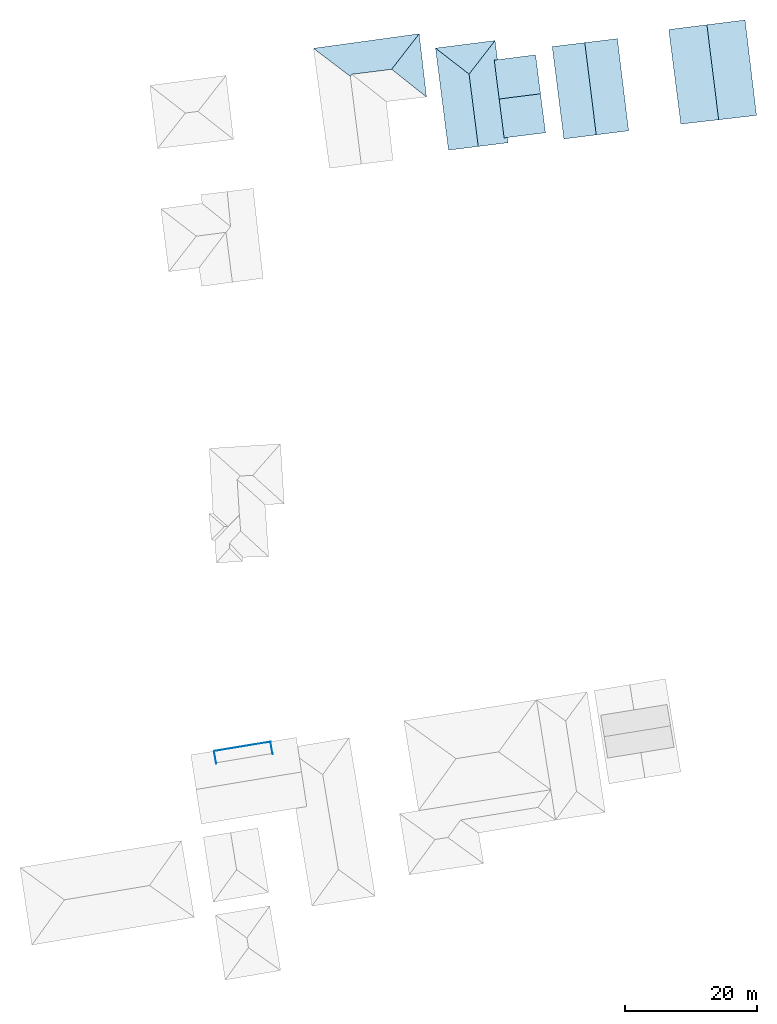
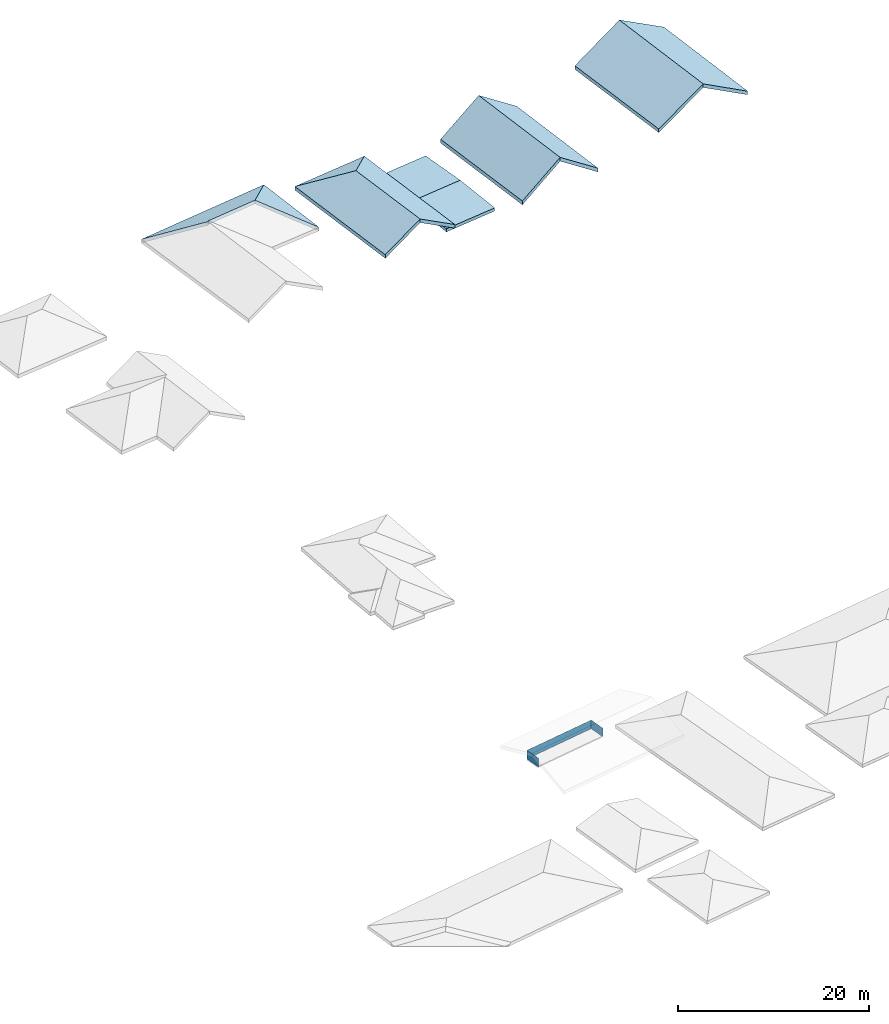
# One storey, part 2 of 5: 11 slabs, 3 walls, 5 elements without a shape of their own.
"""IFC2X3 building model written with IfcOpenShell, lengths in metres."""

from ifc_helpers import new_model, entity, si_unit, converted_unit, derived_unit, direction, frame, frame_2d, origin, place, context, subcontext, project, spatial, polyline, rectangle, outline, extrude, material, layer, layer_set, layer_usage, type_object, element, aggregate, save


model = new_model("IFC2X3")

# Units and contexts
model_context = context("Model", 3, precision=1e-05, world=origin(), true_north=direction((6.123031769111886e-17, 1.0)))
body_context = subcontext(model_context, "Body", "Model", "MODEL_VIEW")
ifc_project = project(units=[si_unit("LENGTHUNIT", "METRE"), si_unit("AREAUNIT", "SQUARE_METRE"), si_unit("VOLUMEUNIT", "CUBIC_METRE"), converted_unit("PLANEANGLEUNIT", "DEGREE", entity("IfcRatioMeasure", 0.017453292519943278), si_unit("PLANEANGLEUNIT", "RADIAN"), dimensions=[0, 0, 0, 0, 0, 0, 0]), si_unit("MASSUNIT", "GRAM", prefix="KILO"), derived_unit("MASSDENSITYUNIT", [(si_unit("MASSUNIT", "GRAM", prefix="KILO"), 1), (si_unit("LENGTHUNIT", "METRE"), -3)]), derived_unit("IONCONCENTRATIONUNIT", [(si_unit("MASSUNIT", "GRAM", prefix="KILO"), 1), (si_unit("LENGTHUNIT", "METRE"), -3)]), derived_unit("MOMENTOFINERTIAUNIT", [(si_unit("LENGTHUNIT", "METRE"), 4)]), si_unit("TIMEUNIT", "SECOND"), si_unit("FREQUENCYUNIT", "HERTZ"), si_unit("THERMODYNAMICTEMPERATUREUNIT", "DEGREE_CELSIUS"), derived_unit("THERMALTRANSMITTANCEUNIT", [(si_unit("MASSUNIT", "GRAM", prefix="KILO"), 1), (si_unit("THERMODYNAMICTEMPERATUREUNIT", "KELVIN"), -1), (si_unit("TIMEUNIT", "SECOND"), -3)]), derived_unit("THERMALCONDUCTANCEUNIT", [(si_unit("MASSUNIT", "GRAM", prefix="KILO"), 1), (si_unit("THERMODYNAMICTEMPERATUREUNIT", "KELVIN"), -1), (si_unit("TIMEUNIT", "SECOND"), -3), (si_unit("LENGTHUNIT", "METRE"), 1)]), derived_unit("VOLUMETRICFLOWRATEUNIT", [(si_unit("LENGTHUNIT", "METRE"), 3), (si_unit("TIMEUNIT", "SECOND"), -1)]), derived_unit("MASSFLOWRATEUNIT", [(si_unit("MASSUNIT", "GRAM", prefix="KILO"), 1), (si_unit("TIMEUNIT", "SECOND"), -1)]), derived_unit("ROTATIONALFREQUENCYUNIT", [(si_unit("TIMEUNIT", "SECOND"), -1)]), si_unit("ELECTRICCURRENTUNIT", "AMPERE"), si_unit("ELECTRICVOLTAGEUNIT", "VOLT"), si_unit("POWERUNIT", "WATT"), si_unit("FORCEUNIT", "NEWTON", prefix="KILO"), si_unit("ILLUMINANCEUNIT", "LUX"), si_unit("LUMINOUSFLUXUNIT", "LUMEN"), si_unit("LUMINOUSINTENSITYUNIT", "CANDELA"), derived_unit("USERDEFINED", [(si_unit("MASSUNIT", "GRAM", prefix="KILO"), -1), (si_unit("LENGTHUNIT", "METRE"), -2), (si_unit("TIMEUNIT", "SECOND"), 3), (si_unit("LUMINOUSFLUXUNIT", "LUMEN"), 1)]), derived_unit("USERDEFINED", [(si_unit("MASSUNIT", "GRAM", prefix="KILO"), 1), (si_unit("TIMEUNIT", "SECOND"), -3), (si_unit("LENGTHUNIT", "METRE"), 3), (si_unit("ELECTRICCURRENTUNIT", "AMPERE"), -2)]), derived_unit("SOUNDPOWERUNIT", [(si_unit("MASSUNIT", "GRAM", prefix="KILO"), 1), (si_unit("TIMEUNIT", "SECOND"), -3), (si_unit("LENGTHUNIT", "METRE"), 2)]), derived_unit("SOUNDPRESSUREUNIT", [(si_unit("MASSUNIT", "GRAM", prefix="KILO"), 1), (si_unit("LENGTHUNIT", "METRE"), -1), (si_unit("TIMEUNIT", "SECOND"), -2)]), derived_unit("LINEARVELOCITYUNIT", [(si_unit("LENGTHUNIT", "METRE"), 1), (si_unit("TIMEUNIT", "SECOND"), -1)]), si_unit("PRESSUREUNIT", "PASCAL"), derived_unit("USERDEFINED", [(si_unit("MASSUNIT", "GRAM", prefix="KILO"), 1), (si_unit("LENGTHUNIT", "METRE"), -2), (si_unit("TIMEUNIT", "SECOND"), -2)]), derived_unit("LINEARFORCEUNIT", [(si_unit("MASSUNIT", "GRAM", prefix="KILO"), 1), (si_unit("TIMEUNIT", "SECOND"), -2)]), derived_unit("PLANARFORCEUNIT", [(si_unit("MASSUNIT", "GRAM", prefix="KILO"), 1), (si_unit("LENGTHUNIT", "METRE"), -1), (si_unit("TIMEUNIT", "SECOND"), -2)]), derived_unit("SPECIFICHEATCAPACITYUNIT", [(si_unit("THERMODYNAMICTEMPERATUREUNIT", "KELVIN"), -1), (si_unit("LENGTHUNIT", "METRE"), 2), (si_unit("TIMEUNIT", "SECOND"), -2)]), derived_unit("HEATINGVALUEUNIT", [(si_unit("LENGTHUNIT", "METRE"), 2), (si_unit("TIMEUNIT", "SECOND"), -2)]), derived_unit("VAPORPERMEABILITYUNIT", [(si_unit("LENGTHUNIT", "METRE"), -1), (si_unit("TIMEUNIT", "SECOND"), 1)]), derived_unit("DYNAMICVISCOSITYUNIT", [(si_unit("MASSUNIT", "GRAM", prefix="KILO"), 1), (si_unit("TIMEUNIT", "SECOND"), -1), (si_unit("LENGTHUNIT", "METRE"), -1)]), derived_unit("THERMALEXPANSIONCOEFFICIENTUNIT", [(si_unit("THERMODYNAMICTEMPERATUREUNIT", "KELVIN"), -1)]), derived_unit("MODULUSOFELASTICITYUNIT", [(si_unit("MASSUNIT", "GRAM", prefix="KILO"), 1), (si_unit("LENGTHUNIT", "METRE"), -1), (si_unit("TIMEUNIT", "SECOND"), -2)]), derived_unit("ISOTHERMALMOISTURECAPACITYUNIT", [(si_unit("LENGTHUNIT", "METRE"), 3), (si_unit("MASSUNIT", "GRAM", prefix="KILO"), -1)]), derived_unit("MOISTUREDIFFUSIVITYUNIT", [(si_unit("TIMEUNIT", "SECOND"), -1), (si_unit("LENGTHUNIT", "METRE"), 2)])], contexts=[model_context])

# Site, building, storey
site_placement = place(None, origin())
site = spatial("IfcSite", under=ifc_project, at=site_placement, Name="Default", CompositionType="ELEMENT")
building_placement = place(site_placement, origin())
building = spatial("IfcBuilding", under=site, at=building_placement, Name="Projeto", CompositionType="ELEMENT")
storey_placement = place(building_placement, frame((0.0, 0.0, 3.0)))
storey = spatial("IfcBuildingStorey", under=building, at=storey_placement, Name="Segundo Pavimento", CompositionType="ELEMENT", Elevation=3.0000000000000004)

# Roof, slabs
ifc_material_1 = material(Name="NBS_Betafence_GreenRAL6005")
ifc_layer_1 = layer(ifc_material_1, 0.4)
ifc_layer_set_1 = layer_set([ifc_layer_1], Name="Telhado básico:Genérico - 400 mm")
roof_1_placement = place(storey_placement, frame((21.694084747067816, 51.4081236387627, -1.6000000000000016)))
roof_1 = element("IfcRoof", 1, at=roof_1_placement, inside=storey, material=ifc_layer_set_1, Name="Telhado básico:Genérico - 400 mm", ObjectType="Telhado básico:Genérico - 400 mm", ShapeType="NOTDEFINED")
slab_type = type_object("IfcSlabType", Name="Telhado básico:Genérico - 400 mm", PredefinedType="ROOF")
slab_1_placement = place(roof_1_placement, origin())
slab_1 = element("IfcSlab", 2, at=slab_1_placement, type_object=slab_type, material=ifc_layer_set_1, Name="Telhado básico:Genérico - 400 mm", ObjectType="Telhado básico:Genérico - 400 mm", PredefinedType="ROOF", context=body_context, shape_type="SweptSolid", body=[
    extrude(outline(polyline([(-2.2835947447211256, -7.615949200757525), (4.334067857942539, -6.712762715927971), (2.2752810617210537, 7.672271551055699), (-4.397263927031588, 6.703434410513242), (-2.2835947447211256, -7.615949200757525)])), frame((3.818333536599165, 7.512928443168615, 1.6856239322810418), z_axis=(-0.4959640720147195, -0.06340062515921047, 0.8660254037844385), x_axis=(0.8683430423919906, -0.03621199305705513, 0.4946403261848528)), (0.4946403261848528, 0.0730133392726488, 0.8660254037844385), 0.4618802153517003),
])
slab_2_placement = place(roof_1_placement, origin())
slab_2 = element("IfcSlab", 3, at=slab_2_placement, type_object=slab_type, material=ifc_layer_set_1, Name="Telhado básico:Genérico - 400 mm", ObjectType="Telhado básico:Genérico - 400 mm", PredefinedType="ROOF", context=body_context, shape_type="SweptSolid", body=[
    extrude(outline(polyline([(-4.3373805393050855, 6.733892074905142), (-2.2779589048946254, -7.651051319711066), (4.341301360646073, -6.762164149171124), (2.33727690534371, 7.688361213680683), (-4.3373805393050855, 6.733892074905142)])), frame((9.559231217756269, 8.21644945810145, 1.6856239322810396), z_axis=(0.4964324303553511, 0.05962249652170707, 0.8660254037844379), x_axis=(0.8680753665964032, -0.03409674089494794, -0.4952601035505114)), (-0.4952601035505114, -0.06868354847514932, 0.8660254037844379), 0.4618802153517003),
])
aggregate(roof_1, [slab_1, slab_2])

roof_2_placement = place(storey_placement, frame((4.002138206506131, 49.15226738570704, -3.23018678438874)))
roof_2 = element("IfcRoof", 4, at=roof_2_placement, inside=storey, material=ifc_layer_set_1, Name="Telhado básico:Genérico - 400 mm", ObjectType="Telhado básico:Genérico - 400 mm", ShapeType="NOTDEFINED")
slab_3_placement = place(roof_2_placement, origin())
slab_3 = element("IfcSlab", 5, at=slab_3_placement, type_object=slab_type, material=ifc_layer_set_1, Name="Telhado básico:Genérico - 400 mm", ObjectType="Telhado básico:Genérico - 400 mm", PredefinedType="ROOF", context=body_context, shape_type="SweptSolid", body=[
    extrude(outline(polyline([(-1.9302236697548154, -7.447080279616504), (4.0482273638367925, -6.524190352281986), (1.9334444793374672, 7.426198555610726), (-4.084418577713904, 6.519378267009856), (-1.9302236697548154, -7.447080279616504)])), frame((3.3586225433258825, 7.3225214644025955, 1.7453260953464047), z_axis=(-0.5690524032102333, -0.07189777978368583, 0.819152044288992), x_axis=(0.8223012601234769, -0.04975500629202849, 0.5668730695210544)), (0.5668730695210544, 0.08743484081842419, 0.819152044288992), 0.488309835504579),
])
slab_4_placement = place(roof_2_placement, origin())
slab_4 = element("IfcSlab", 6, at=slab_4_placement, type_object=slab_type, material=ifc_layer_set_1, Name="Telhado básico:Genérico - 400 mm", ObjectType="Telhado básico:Genérico - 400 mm", PredefinedType="ROOF", context=body_context, shape_type="SweptSolid", body=[
    extrude(outline(polyline([(-4.04927024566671, 6.529443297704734), (-1.933953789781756, -7.420864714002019), (4.046063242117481, -6.507917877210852), (1.970057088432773, 7.426243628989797), (-4.04927024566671, 6.529443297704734)])), frame((8.277376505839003, 7.923139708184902, 1.7453260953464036), z_axis=(0.5693520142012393, 0.06948533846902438, 0.8191520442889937), x_axis=(0.8220938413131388, -0.04812299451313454, -0.5673146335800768)), (-0.5673146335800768, -0.08452239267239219, 0.8191520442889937), 0.488309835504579),
])
aggregate(roof_2, [slab_3, slab_4])

roof_3_placement = place(storey_placement, frame((-13.7138557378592, 47.454120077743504, -2.8886751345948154)))
roof_3 = element("IfcRoof", 7, at=roof_3_placement, inside=storey, material=ifc_layer_set_1, Name="Telhado básico:Genérico - 400 mm", ObjectType="Telhado básico:Genérico - 400 mm", ShapeType="NOTDEFINED")
slab_5_placement = place(roof_3_placement, origin())
slab_5 = element("IfcSlab", 8, at=slab_5_placement, type_object=slab_type, material=ifc_layer_set_1, Name="Telhado básico:Genérico - 400 mm", ObjectType="Telhado básico:Genérico - 400 mm", PredefinedType="ROOF", context=body_context, shape_type="SweptSolid", body=[
    extrude(outline(polyline([(3.737787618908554, -7.347451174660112), (2.129284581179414, 3.6038629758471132), (-3.737787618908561, 7.3474511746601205), (-1.4746831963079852, -8.099406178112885), (3.737787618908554, -7.347451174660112)])), frame((3.245555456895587, 8.025085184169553, 1.316604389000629), z_axis=(-0.49602328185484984, -0.06293571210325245, 0.8660254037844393), x_axis=(0.8683092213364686, -0.03595214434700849, 0.4947186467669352)), (0.4947186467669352, 0.07248075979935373, 0.8660254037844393), 0.4618802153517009),
])
slab_6_placement = place(roof_3_placement, origin())
slab_6 = element("IfcSlab", 9, at=slab_6_placement, type_object=slab_type, material=ifc_layer_set_1, Name="Telhado básico:Genérico - 400 mm", ObjectType="Telhado básico:Genérico - 400 mm", PredefinedType="ROOF", context=body_context, shape_type="SweptSolid", body=[
    extrude(outline(polyline([(4.239626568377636, 3.1153967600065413), (-4.817253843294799, 2.1152294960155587), (0.28739862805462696, -2.6154693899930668), (4.239626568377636, 3.1153967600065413)])), frame((4.807609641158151, 13.803490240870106, 1.315605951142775), z_axis=(-0.06324568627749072, 0.49598385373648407, 0.866025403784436), x_axis=(0.9979979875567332, 0.03143176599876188, 0.054882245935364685)), (0.054882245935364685, -0.4969788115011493, 0.866025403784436), 0.4618802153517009),
])
slab_7_placement = place(roof_3_placement, origin())
slab_7 = element("IfcSlab", 10, at=slab_7_placement, type_object=slab_type, material=ifc_layer_set_1, Name="Telhado básico:Genérico - 400 mm", ObjectType="Telhado básico:Genérico - 400 mm", PredefinedType="ROOF", context=body_context, shape_type="SweptSolid", body=[
    extrude(outline(polyline([(3.7443202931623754, -7.353320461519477), (1.4659202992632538, 8.1204885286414), (-3.076485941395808, 2.845123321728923), (-1.4680246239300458, -8.106196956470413), (3.7443202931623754, -7.353320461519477)])), frame((7.765843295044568, 8.59421115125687, 1.316604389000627), z_axis=(0.4959838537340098, 0.06324568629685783, 0.8660254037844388), x_axis=(0.8683317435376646, -0.03612540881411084, -0.49466649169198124)), (-0.49466649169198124, -0.07283585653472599, 0.8660254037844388), 0.4618802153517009),
])
aggregate(roof_3, [slab_5, slab_6, slab_7])

roof_4_placement = place(storey_placement, frame((-32.25607136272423, 44.70752945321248, -3.1196152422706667)))
roof_4 = element("IfcRoof", 11, at=roof_4_placement, inside=storey, material=ifc_layer_set_1, Name="Telhado básico:Genérico - 400 mm", ObjectType="Telhado básico:Genérico - 400 mm", ShapeType="NOTDEFINED")
slab_8_placement = place(roof_4_placement, origin())
slab_8 = element("IfcSlab", 12, at=slab_8_placement, type_object=slab_type, material=ifc_layer_set_1, Name="Telhado básico:Genérico - 400 mm", ObjectType="Telhado básico:Genérico - 400 mm", PredefinedType="ROOF", context=body_context, shape_type="SweptSolid", body=[
    extrude(outline(polyline([(3.3724817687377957, -4.428619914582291), (2.099073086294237, 5.15559887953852), (-2.7286553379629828, -0.4170933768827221), (3.3724817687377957, -4.428619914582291)])), frame((14.24481685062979, 15.346233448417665, 1.379909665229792), z_axis=(0.496722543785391, 0.057155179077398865, 0.8660254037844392), x_axis=(0.867909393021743, -0.03271109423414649, -0.4956442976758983)), (-0.4956442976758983, -0.06585385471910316, 0.8660254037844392), 0.4618802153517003),
])
slab_9_placement = place(roof_4_placement, origin())
slab_9 = element("IfcSlab", 13, at=slab_9_placement, type_object=slab_type, material=ifc_layer_set_1, Name="Telhado básico:Genérico - 400 mm", ObjectType="Telhado básico:Genérico - 400 mm", PredefinedType="ROOF", context=body_context, shape_type="SweptSolid", body=[
    extrude(outline(polyline([(7.710740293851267, 3.8213402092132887), (-8.393434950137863, 1.8995806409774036), (-2.771738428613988, -3.2319542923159), (-2.5280218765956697, -2.880292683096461), (3.5109159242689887, -2.2386380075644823), (7.710740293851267, 3.8213402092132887)])), frame((8.373862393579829, 16.843582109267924, 1.4403777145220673), z_axis=(-0.06825203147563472, 0.49531975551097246, 0.8660254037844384), x_axis=(0.9976681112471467, 0.03388559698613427, 0.05924614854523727)), (0.05924614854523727, -0.4964774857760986, 0.8660254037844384), 0.4618802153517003),
])
aggregate(roof_4, [slab_8, slab_9])

roof_5_placement = place(storey_placement, frame((-4.80029714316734, 49.31356230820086, -3.610476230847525)))
roof_5 = element("IfcRoof", 14, at=roof_5_placement, inside=storey, material=ifc_layer_set_1, Name="Telhado básico:Genérico - 400 mm", ObjectType="Telhado básico:Genérico - 400 mm", ShapeType="NOTDEFINED")
slab_10_placement = place(roof_5_placement, origin())
slab_10 = element("IfcSlab", 15, at=slab_10_placement, type_object=slab_type, material=ifc_layer_set_1, Name="Telhado básico:Genérico - 400 mm", ObjectType="Telhado básico:Genérico - 400 mm", PredefinedType="ROOF", context=body_context, shape_type="SweptSolid", body=[
    extrude(outline(polyline([(-3.515167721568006, 2.5593001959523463), (-2.7622046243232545, -3.3491688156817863), (3.5151677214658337, -2.5593001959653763), (2.760937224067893, 3.3591140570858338), (-3.515167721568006, 2.5593001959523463)])), frame((3.5151334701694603, 9.252425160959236, 0.1041100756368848), z_axis=(-0.0044144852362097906, 0.03461917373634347, 0.9993908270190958), x_axis=(0.999990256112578, 0.0001528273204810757, 0.004411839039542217)), (0.004411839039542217, -0.03461951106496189, 0.9993908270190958), 0.4002438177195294),
])
slab_11_placement = place(roof_5_placement, origin())
slab_11 = element("IfcSlab", 16, at=slab_11_placement, type_object=slab_type, material=ifc_layer_set_1, Name="Telhado básico:Genérico - 400 mm", ObjectType="Telhado básico:Genérico - 400 mm", PredefinedType="ROOF", context=body_context, shape_type="SweptSolid", body=[
    extrude(outline(polyline([(2.762185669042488, 3.349193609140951), (-3.515183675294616, 2.559301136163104), (-2.7622171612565, -3.349197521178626), (3.516419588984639, -2.569250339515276), (2.762185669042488, 3.349193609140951)])), frame((4.268106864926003, 3.3476001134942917, 0.1041100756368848), z_axis=(0.004304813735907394, -0.03463298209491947, 0.9993908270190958), x_axis=(0.9999907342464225, 0.00014908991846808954, -0.004302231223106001)), (-0.004302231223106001, 0.03463330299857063, 0.9993908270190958), 0.4002438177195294),
])
aggregate(roof_5, [slab_10, slab_11])

# Walls
ifc_material_2 = material(Name="Metal")
ifc_layer_2 = layer(ifc_material_2, 0.01)
ifc_layer_set_2 = layer_set([ifc_layer_2], Name="Parede básica:JA_Aluminio")
ifc_layer_usage = layer_usage(ifc_layer_set_2, "AXIS2", "POSITIVE", -0.005)
wall_type = type_object("IfcWallType", Name="Parede básica:JA_Aluminio", PredefinedType="STANDARD", material=ifc_layer_set_2)
wall_1_placement = place(storey_placement, frame((-38.44137061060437, -44.27625409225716, 1.0499999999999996), z_axis=(0.0, 0.0, 1.0), x_axis=(-0.1637289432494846, 0.9865053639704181, 0.0)))
element("IfcWallStandardCase", 17, at=wall_1_placement, inside=storey, type_object=wall_type, material=ifc_layer_usage, Name="Parede básica:JA_Aluminio", ObjectType="Parede básica:JA_Aluminio", context=body_context, shape_type="SweptSolid", body=[
    extrude(outline(polyline([(1.947324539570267, -0.005000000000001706), (1.9473245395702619, 0.004999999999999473), (1.9373245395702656, 0.004999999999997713), (5.040152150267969e-06, 0.004999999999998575), (0.0, -0.004999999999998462), (0.13901540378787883, -0.00500000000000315), (1.947324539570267, -0.005000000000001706)])), origin(), (0.0, 0.0, 1.0), 1.1),
])
wall_2_placement = place(storey_placement, frame((-38.76431788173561, -42.36095916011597, 1.0499999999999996), z_axis=(0.0, 0.0, 1.0), x_axis=(-0.986505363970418, -0.16372894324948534, 0.0)))
element("IfcWallStandardCase", 18, at=wall_2_placement, inside=storey, type_object=wall_type, material=ifc_layer_usage, Name="Parede básica:JA_Aluminio", ObjectType="Parede básica:JA_Aluminio", context=body_context, shape_type="SweptSolid", body=[
    extrude(rectangle(XDim=8.689392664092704, YDim=0.010000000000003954, at=frame_2d((4.344696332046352, -1.9875594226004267e-15), x_axis=(-1.0, 0.0))), origin(), (0.0, 0.0, 1.0), 1.1),
])
wall_3_placement = place(storey_placement, frame((-47.33069918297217, -43.7877781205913, 1.0499999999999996), z_axis=(0.0, 0.0, 1.0), x_axis=(0.16372894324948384, -0.9865053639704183, 0.0)))
element("IfcWallStandardCase", 19, at=wall_3_placement, inside=storey, type_object=wall_type, material=ifc_layer_usage, Name="Parede básica:JA_Aluminio", ObjectType="Parede básica:JA_Aluminio", context=body_context, shape_type="SweptSolid", body=[
    extrude(outline(polyline([(1.932939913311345, -0.0049999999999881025), (1.9329449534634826, 0.0050000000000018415), (0.0, 0.005000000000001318), (0.0, -0.004999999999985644), (1.7983091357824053, -0.004999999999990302), (1.932939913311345, -0.0049999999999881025)])), origin(), (0.0, 0.0, 1.0), 1.1),
])

save(model, "model.ifc")
